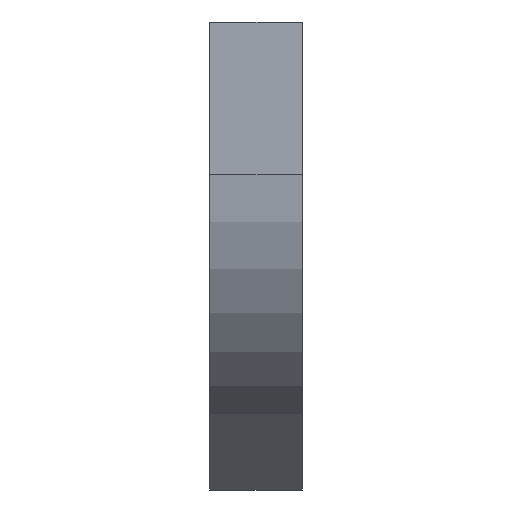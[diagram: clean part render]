
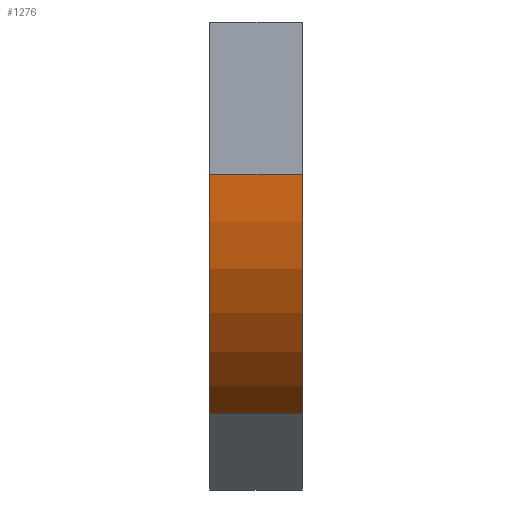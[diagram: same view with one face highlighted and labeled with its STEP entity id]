
A CAD part, left-side view. The second image highlights one B-rep face of the part: STEP entity #1276.
In plain terms, the highlighted cylindrical face has radius 300 mm (diameter 600 mm), a partial arc.
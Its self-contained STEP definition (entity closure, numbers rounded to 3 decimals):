
#13 = DIRECTION ( 'NONE',  ( 0., -1., 0. ) ) ;
#207 = DIRECTION ( 'NONE',  ( 0., -1., 0. ) ) ;
#213 = AXIS2_PLACEMENT_3D ( 'NONE', #1722, #13, #475 ) ;
#226 = CARTESIAN_POINT ( 'NONE',  ( 300., 0., -165.47 ) ) ;
#277 = VERTEX_POINT ( 'NONE', #1574 ) ;
#303 = CARTESIAN_POINT ( 'NONE',  ( 150., 0., -425.278 ) ) ;
#317 = VERTEX_POINT ( 'NONE', #303 ) ;
#364 = AXIS2_PLACEMENT_3D ( 'NONE', #1223, #207, #1073 ) ;
#475 = DIRECTION ( 'NONE',  ( -1., 0., 0. ) ) ;
#478 = LINE ( 'NONE', #1625, #1589 ) ;
#640 = CYLINDRICAL_SURFACE ( 'NONE', #837, 300. ) ;
#655 = DIRECTION ( 'NONE',  ( 0., 0., -1. ) ) ;
#715 = VECTOR ( 'NONE', #718, 1000. ) ;
#718 = DIRECTION ( 'NONE',  ( 0., -1., 0. ) ) ;
#725 = DIRECTION ( 'NONE',  ( 0., -1., 0. ) ) ;
#728 = LINE ( 'NONE', #1299, #715 ) ;
#729 = EDGE_CURVE ( 'NONE', #783, #277, #728, .T. ) ;
#731 = ORIENTED_EDGE ( 'NONE', *, *, #889, .T. ) ;
#777 = DIRECTION ( 'NONE',  ( 0., -1., 0. ) ) ;
#783 = VERTEX_POINT ( 'NONE', #999 ) ;
#837 = AXIS2_PLACEMENT_3D ( 'NONE', #226, #777, #655 ) ;
#879 = EDGE_CURVE ( 'NONE', #1512, #317, #478, .T. ) ;
#889 = EDGE_CURVE ( 'NONE', #783, #1512, #1503, .T. ) ;
#930 = CIRCLE ( 'NONE', #364, 300. ) ;
#985 = ORIENTED_EDGE ( 'NONE', *, *, #879, .T. ) ;
#999 = CARTESIAN_POINT ( 'NONE',  ( 0., 100., -165.47 ) ) ;
#1071 = ORIENTED_EDGE ( 'NONE', *, *, #1333, .F. ) ;
#1073 = DIRECTION ( 'NONE',  ( -1., 0., 0. ) ) ;
#1168 = CARTESIAN_POINT ( 'NONE',  ( 150., 100., -425.278 ) ) ;
#1223 = CARTESIAN_POINT ( 'NONE',  ( 300., 0., -165.47 ) ) ;
#1276 = ADVANCED_FACE ( 'NONE', ( #1629 ), #640, .T. ) ;
#1299 = CARTESIAN_POINT ( 'NONE',  ( 0., 0., -165.47 ) ) ;
#1333 = EDGE_CURVE ( 'NONE', #277, #317, #930, .T. ) ;
#1503 = CIRCLE ( 'NONE', #213, 300. ) ;
#1512 = VERTEX_POINT ( 'NONE', #1168 ) ;
#1574 = CARTESIAN_POINT ( 'NONE',  ( 0., 0., -165.47 ) ) ;
#1589 = VECTOR ( 'NONE', #725, 1000. ) ;
#1625 = CARTESIAN_POINT ( 'NONE',  ( 150., 0., -425.278 ) ) ;
#1629 = FACE_OUTER_BOUND ( 'NONE', #1751, .T. ) ;
#1683 = ORIENTED_EDGE ( 'NONE', *, *, #729, .F. ) ;
#1722 = CARTESIAN_POINT ( 'NONE',  ( 300., 100., -165.47 ) ) ;
#1751 = EDGE_LOOP ( 'NONE', ( #1071, #1683, #731, #985 ) ) ;
